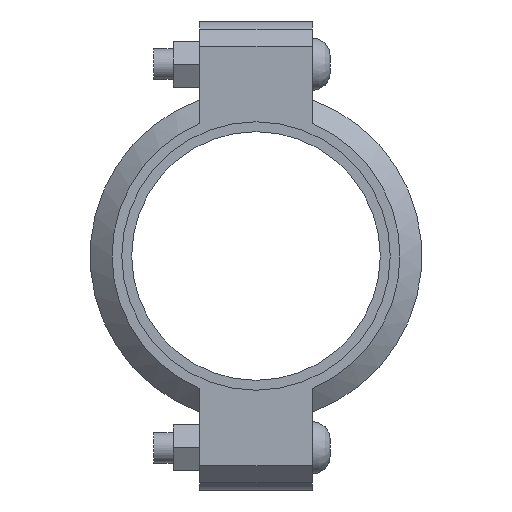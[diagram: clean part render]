
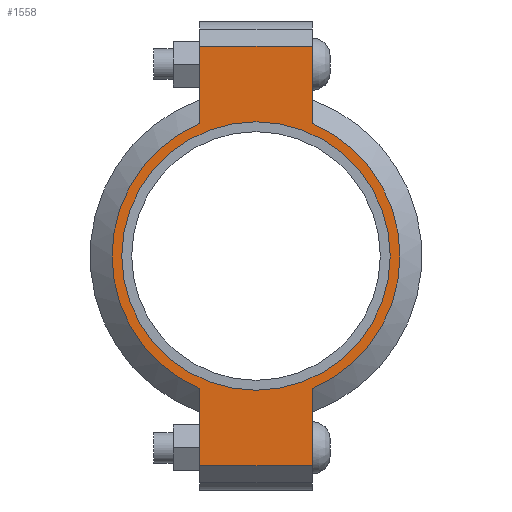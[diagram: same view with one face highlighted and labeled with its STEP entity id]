
A CAD part, left-side view. The second image highlights one B-rep face of the part: STEP entity #1558.
In plain terms, the highlighted planar face has unit normal (-1, 0, 0) as drawn and (0, 0, 1) by its records, which use the part's own axes.
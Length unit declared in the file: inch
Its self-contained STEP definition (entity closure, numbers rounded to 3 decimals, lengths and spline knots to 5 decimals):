
#182=LINE('',#2719,#275);
#190=LINE('',#2755,#283);
#197=LINE('',#2776,#290);
#206=LINE('',#2808,#299);
#207=LINE('',#2812,#300);
#208=LINE('',#2814,#301);
#275=VECTOR('',#2215,0.3937);
#283=VECTOR('',#2231,0.3937);
#290=VECTOR('',#2250,0.3937);
#299=VECTOR('',#2275,0.3937);
#300=VECTOR('',#2280,0.3937);
#301=VECTOR('',#2281,0.3937);
#357=FACE_BOUND('',#535,.T.);
#429=FACE_OUTER_BOUND('',#534,.T.);
#534=EDGE_LOOP('',(#1299,#1300,#1301,#1302,#1303,#1304,#1305,#1306));
#535=EDGE_LOOP('',(#1307));
#607=CIRCLE('',#1777,2.75);
#633=CIRCLE('',#1836,2.95);
#634=CIRCLE('',#1837,2.95);
#699=VERTEX_POINT('',#2535);
#742=VERTEX_POINT('',#2716);
#743=VERTEX_POINT('',#2718);
#754=VERTEX_POINT('',#2750);
#755=VERTEX_POINT('',#2754);
#762=VERTEX_POINT('',#2773);
#763=VERTEX_POINT('',#2775);
#773=VERTEX_POINT('',#2811);
#774=VERTEX_POINT('',#2813);
#855=EDGE_CURVE('',#699,#699,#607,.T.);
#916=EDGE_CURVE('',#743,#742,#182,.T.);
#930=EDGE_CURVE('',#755,#754,#190,.T.);
#940=EDGE_CURVE('',#763,#762,#197,.T.);
#955=EDGE_CURVE('',#755,#742,#206,.T.);
#956=EDGE_CURVE('',#754,#763,#633,.T.);
#957=EDGE_CURVE('',#773,#762,#207,.T.);
#958=EDGE_CURVE('',#773,#774,#208,.T.);
#959=EDGE_CURVE('',#774,#743,#634,.T.);
#1299=ORIENTED_EDGE('',*,*,#955,.F.);
#1300=ORIENTED_EDGE('',*,*,#930,.T.);
#1301=ORIENTED_EDGE('',*,*,#956,.T.);
#1302=ORIENTED_EDGE('',*,*,#940,.T.);
#1303=ORIENTED_EDGE('',*,*,#957,.F.);
#1304=ORIENTED_EDGE('',*,*,#958,.T.);
#1305=ORIENTED_EDGE('',*,*,#959,.T.);
#1306=ORIENTED_EDGE('',*,*,#916,.T.);
#1307=ORIENTED_EDGE('',*,*,#855,.T.);
#1400=PLANE('',#1835);
#1558=ADVANCED_FACE('',(#429,#357),#1400,.T.);
#1777=AXIS2_PLACEMENT_3D('',#2537,#2091,#2092);
#1835=AXIS2_PLACEMENT_3D('',#2809,#2276,#2277);
#1836=AXIS2_PLACEMENT_3D('',#2810,#2278,#2279);
#1837=AXIS2_PLACEMENT_3D('',#2815,#2282,#2283);
#2091=DIRECTION('center_axis',(0.,0.,-1.));
#2092=DIRECTION('ref_axis',(-1.,0.,0.));
#2215=DIRECTION('',(-1.,0.,0.));
#2231=DIRECTION('',(1.,0.,0.));
#2250=DIRECTION('',(1.,0.,0.));
#2275=DIRECTION('',(0.,1.,0.));
#2276=DIRECTION('center_axis',(0.,0.,1.));
#2277=DIRECTION('ref_axis',(1.,0.,0.));
#2278=DIRECTION('center_axis',(0.,0.,1.));
#2279=DIRECTION('ref_axis',(-1.,0.,0.));
#2280=DIRECTION('',(0.,-1.,0.));
#2281=DIRECTION('',(-1.,0.,0.));
#2282=DIRECTION('center_axis',(0.,0.,1.));
#2283=DIRECTION('ref_axis',(-1.,0.,0.));
#2535=CARTESIAN_POINT('',(2.75,0.,1.065));
#2537=CARTESIAN_POINT('Origin',(0.,0.,1.065));
#2716=CARTESIAN_POINT('',(-4.295,1.15,1.065));
#2718=CARTESIAN_POINT('',(-2.71662,1.15,1.065));
#2719=CARTESIAN_POINT('',(-4.795,1.15,1.065));
#2750=CARTESIAN_POINT('',(-2.71662,-1.15,1.065));
#2754=CARTESIAN_POINT('',(-4.295,-1.15,1.065));
#2755=CARTESIAN_POINT('',(4.795,-1.15,1.065));
#2773=CARTESIAN_POINT('',(4.295,-1.15,1.065));
#2775=CARTESIAN_POINT('',(2.71662,-1.15,1.065));
#2776=CARTESIAN_POINT('',(4.795,-1.15,1.065));
#2808=CARTESIAN_POINT('',(-4.295,0.575,1.065));
#2809=CARTESIAN_POINT('Origin',(0.,0.,1.065));
#2810=CARTESIAN_POINT('Origin',(0.,0.,1.065));
#2811=CARTESIAN_POINT('',(4.295,1.15,1.065));
#2812=CARTESIAN_POINT('',(4.295,-0.575,1.065));
#2813=CARTESIAN_POINT('',(2.71662,1.15,1.065));
#2814=CARTESIAN_POINT('',(-4.795,1.15,1.065));
#2815=CARTESIAN_POINT('Origin',(0.,0.,1.065));
